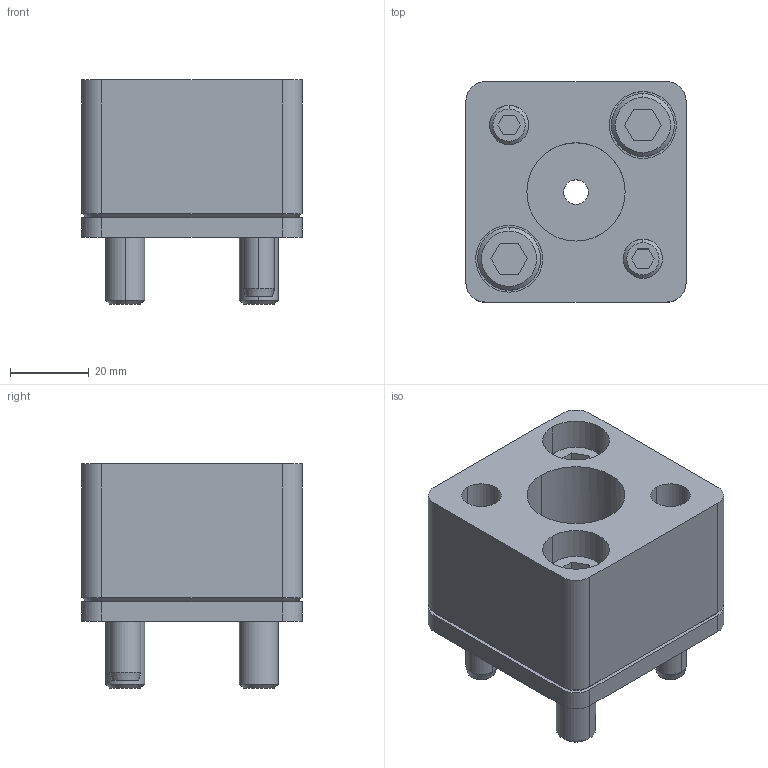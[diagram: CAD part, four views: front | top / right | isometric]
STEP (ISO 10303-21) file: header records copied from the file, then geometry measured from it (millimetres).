
FILE_DESCRIPTION(/* description */ (''),/* implementation_level */ '2;1');
FILE_NAME(/* name */ '3d_hsa-fp25_04190_r00.stp',/* time_stamp */ '2011-01-10T14:14:35+09:00',/* author */ ('MISUMI'),/* organization */ (''),/* preprocessor_version */ 'ST-DEVELOPER v11',/* originating_system */ 'UGS - NX 5.0',/* authorisation */ '');
FILE_SCHEMA (('CONFIG_CONTROL_DESIGN'));
Length unit declared in the file: millimetre
Products named in the file (1): 3d_hsa-fp25_04190_r00
Bounding box: 56 x 56 x 57 mm (x, y, z)
Volume: 100871.1 mm3; surface area: 34797.3 mm2
Topology: 8 solids, 8 shells, 167 faces, 380 edges, 243 vertices
Faces by surface type: plane 72, cylinder 65, cone 30
Entity records: 4856 total; most frequent: DIRECTION 866, CARTESIAN_POINT 850, ORIENTED_EDGE 760, EDGE_CURVE 380, AXIS2_PLACEMENT_3D 329, VERTEX_POINT 243, LINE 208, VECTOR 208
